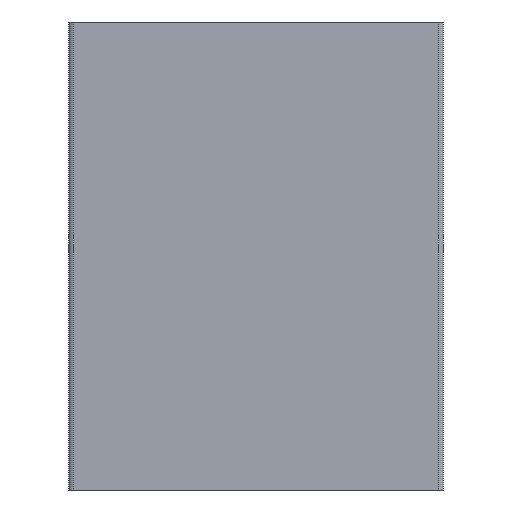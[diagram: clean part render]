
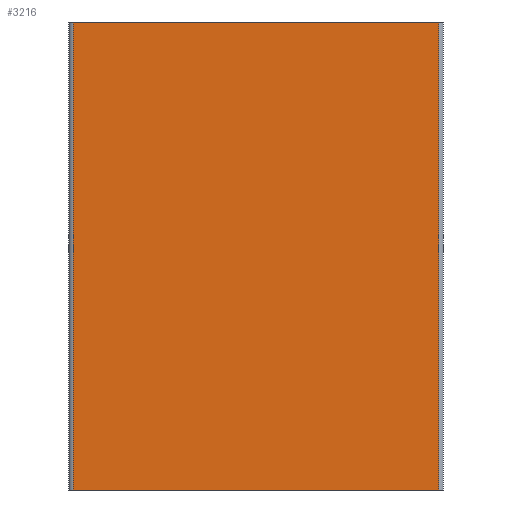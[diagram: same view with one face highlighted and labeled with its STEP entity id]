
A CAD part, left-side view. The second image highlights one B-rep face of the part: STEP entity #3216.
In plain terms, the highlighted planar face has unit normal (-1, 0, 0).
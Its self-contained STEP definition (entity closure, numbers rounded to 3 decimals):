
#772=CARTESIAN_POINT('',(-20.,59.,100.0));
#773=VERTEX_POINT('',#772);
#781=CARTESIAN_POINT('',(-20.,-19.,100.0));
#782=VERTEX_POINT('',#781);
#783=CARTESIAN_POINT('',(-20.,59.,100.0));
#784=DIRECTION('',(0.0,-1.0,0.0));
#785=VECTOR('',#784,78.);
#786=LINE('',#783,#785);
#787=EDGE_CURVE('',#773,#782,#786,.T.);
#1703=CARTESIAN_POINT('',(-20.,-19.,0.0));
#1704=VERTEX_POINT('',#1703);
#1712=CARTESIAN_POINT('',(-20.,59.,0.0));
#1713=VERTEX_POINT('',#1712);
#1714=CARTESIAN_POINT('',(-20.,-19.,0.0));
#1715=DIRECTION('',(0.0,1.0,0.0));
#1716=VECTOR('',#1715,78.);
#1717=LINE('',#1714,#1716);
#1718=EDGE_CURVE('',#1704,#1713,#1717,.T.);
#3191=CARTESIAN_POINT('',(-20.0,59.,0.0));
#3192=DIRECTION('',(0.0,0.0,1.0));
#3193=VECTOR('',#3192,100.0);
#3194=LINE('',#3191,#3193);
#3195=EDGE_CURVE('',#1713,#773,#3194,.T.);
#3200=CARTESIAN_POINT('',(-20.,-20.,0.0));
#3201=DIRECTION('',(-1.0,0.0,0.0));
#3202=DIRECTION('',(0.0,0.0,1.0));
#3203=AXIS2_PLACEMENT_3D('',#3200,#3201,#3202);
#3204=PLANE('',#3203);
#3205=ORIENTED_EDGE('',*,*,#3195,.F.);
#3206=ORIENTED_EDGE('',*,*,#1718,.F.);
#3207=CARTESIAN_POINT('',(-20.,-19.,100.0));
#3208=DIRECTION('',(0.0,0.0,-1.0));
#3209=VECTOR('',#3208,100.0);
#3210=LINE('',#3207,#3209);
#3211=EDGE_CURVE('',#782,#1704,#3210,.T.);
#3212=ORIENTED_EDGE('',*,*,#3211,.F.);
#3213=ORIENTED_EDGE('',*,*,#787,.F.);
#3214=EDGE_LOOP('',(#3205,#3206,#3212,#3213));
#3215=FACE_OUTER_BOUND('',#3214,.T.);
#3216=ADVANCED_FACE('',(#3215),#3204,.T.);
